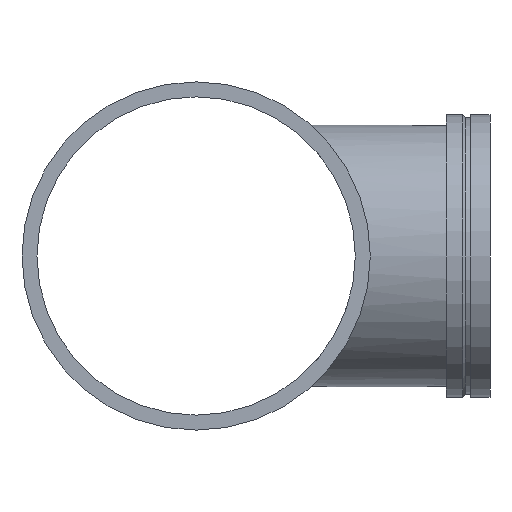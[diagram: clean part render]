
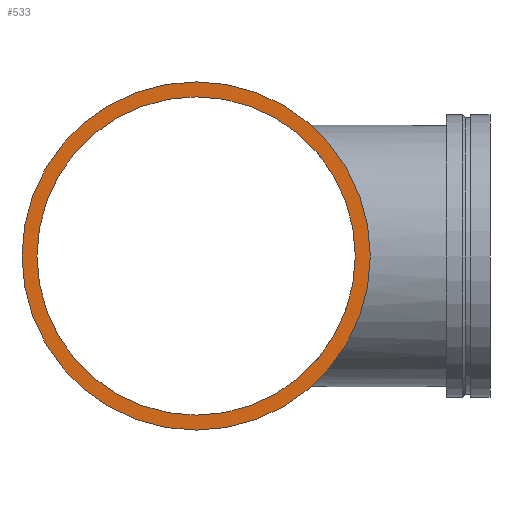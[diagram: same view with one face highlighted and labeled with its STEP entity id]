
A CAD part, left-side view. The second image highlights one B-rep face of the part: STEP entity #533.
In plain terms, the highlighted planar face has unit normal (-1, 0, 0).
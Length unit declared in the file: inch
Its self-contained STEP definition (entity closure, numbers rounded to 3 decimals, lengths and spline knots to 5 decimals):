
#58=FACE_BOUND('',#128,.T.);
#67=PLANE('',#626);
#92=FACE_OUTER_BOUND('',#127,.T.);
#127=EDGE_LOOP('',(#465,#466));
#128=EDGE_LOOP('',(#467,#468));
#151=CIRCLE('',#587,16.);
#152=CIRCLE('',#588,16.);
#175=CIRCLE('',#624,14.625);
#176=CIRCLE('',#625,14.625);
#239=VERTEX_POINT('',#1137);
#240=VERTEX_POINT('',#1139);
#263=VERTEX_POINT('',#1206);
#264=VERTEX_POINT('',#1208);
#299=EDGE_CURVE('',#239,#240,#151,.T.);
#300=EDGE_CURVE('',#240,#239,#152,.T.);
#331=EDGE_CURVE('',#264,#263,#175,.T.);
#332=EDGE_CURVE('',#263,#264,#176,.T.);
#465=ORIENTED_EDGE('',*,*,#300,.F.);
#466=ORIENTED_EDGE('',*,*,#299,.F.);
#467=ORIENTED_EDGE('',*,*,#331,.T.);
#468=ORIENTED_EDGE('',*,*,#332,.T.);
#533=ADVANCED_FACE('',(#92,#58),#67,.T.);
#587=AXIS2_PLACEMENT_3D('',#1140,#716,#717);
#588=AXIS2_PLACEMENT_3D('',#1141,#718,#719);
#624=AXIS2_PLACEMENT_3D('',#1209,#798,#799);
#625=AXIS2_PLACEMENT_3D('',#1210,#800,#801);
#626=AXIS2_PLACEMENT_3D('',#1211,#802,#803);
#716=DIRECTION('center_axis',(1.,0.,0.));
#717=DIRECTION('ref_axis',(0.,0.,1.));
#718=DIRECTION('center_axis',(1.,0.,0.));
#719=DIRECTION('ref_axis',(0.,0.,1.));
#798=DIRECTION('center_axis',(1.,0.,0.));
#799=DIRECTION('ref_axis',(0.,0.,1.));
#800=DIRECTION('center_axis',(1.,0.,0.));
#801=DIRECTION('ref_axis',(0.,0.,1.));
#802=DIRECTION('center_axis',(-1.,0.,0.));
#803=DIRECTION('ref_axis',(0.,0.,-1.));
#1137=CARTESIAN_POINT('',(-28.,16.,0.));
#1139=CARTESIAN_POINT('',(-28.,-16.,0.));
#1140=CARTESIAN_POINT('Origin',(-28.,0.,0.));
#1141=CARTESIAN_POINT('Origin',(-28.,0.,0.));
#1206=CARTESIAN_POINT('',(-28.,14.625,0.));
#1208=CARTESIAN_POINT('',(-28.,-14.625,0.));
#1209=CARTESIAN_POINT('Origin',(-28.,0.,0.));
#1210=CARTESIAN_POINT('Origin',(-28.,0.,0.));
#1211=CARTESIAN_POINT('Origin',(-28.,-16.,0.));
